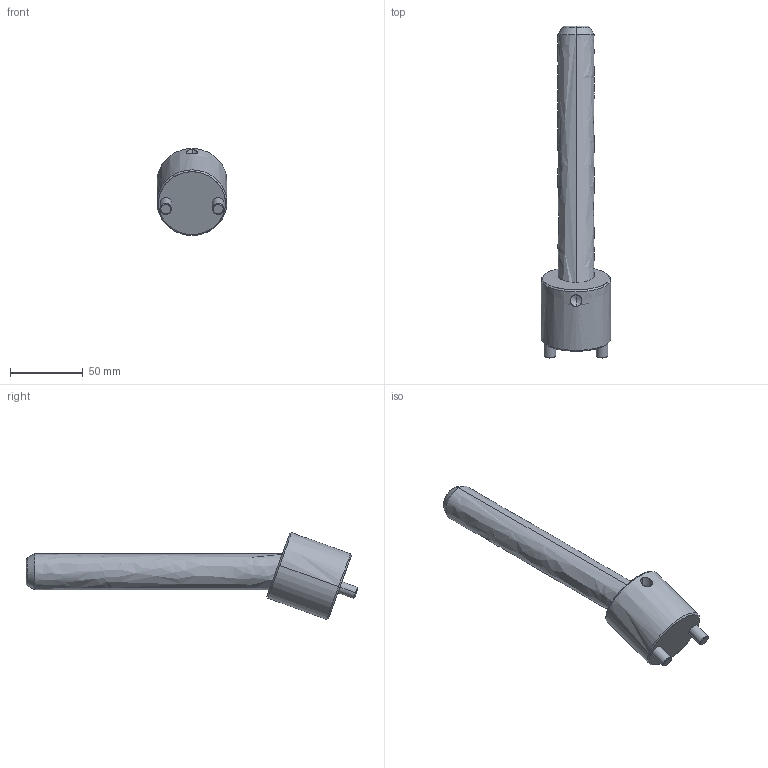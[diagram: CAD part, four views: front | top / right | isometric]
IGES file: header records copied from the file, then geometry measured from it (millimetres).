
Start section: START RECORD GO HERE.
Global section: file name: CI2025175.igs; native system: DASSAULT SYSTEMES CATIA V5 R20 - www.3ds.com; preprocessor: CATIA Version 5 Release 20 ; author: r.borello; organization: CFTORINO; date: 20190624.084434; units: millimetre
Bounding box: 48 x 228.47 x 59.81 mm (x, y, z)
Surface area: 31276 mm2 (no closed solid volume)
Topology: 0 solids, 0 shells, 39 faces, 162 edges, 160 vertices
Faces by surface type: revolution 32, plane 7
